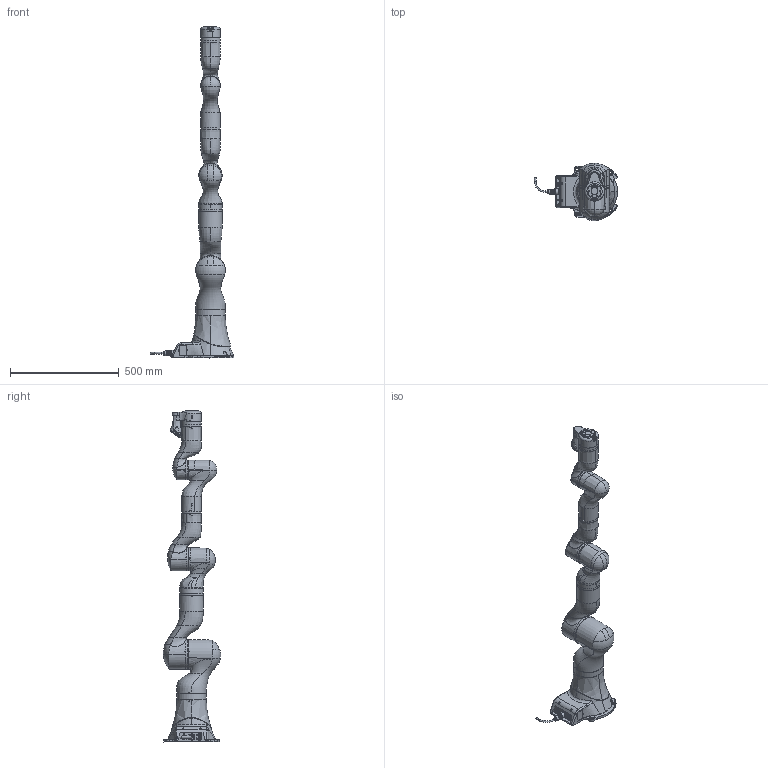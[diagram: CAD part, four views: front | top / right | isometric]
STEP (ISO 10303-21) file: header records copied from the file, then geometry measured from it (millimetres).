
FILE_DESCRIPTION(/* description */ (''),/* implementation_level */ '2;1');
FILE_NAME(/* name */ 'XM7-R850-B0S2 简化模型无Logo(20201229).stp',/* time_stamp */ '2020-12-29T16:42:38+08:00',/* author */ (''),/* organization */ (''),/* preprocessor_version */ 'ST-DEVELOPER v16',/* originating_system */ 'SIEMENS PLM Software NX 10.0',/* authorisation */ '');
FILE_SCHEMA (('CONFIG_CONTROL_DESIGN'));
Products named in the file (8): XM7-R850-B0S2-2; XM7-R850-B0S2-6; XM7-R850-B0S2-5; XM7-R850-B0S2-4; XM7-R850-B0S2-3; XM7-R850-B0S2-1; XM7-R850-B0S2-base; XM7-R850-B0S2 简化模型无Logo(20201029)
Assembly tree (7 placements, depth 2):
  XM7-R850-B0S2 简化模型无Logo(20201029)
    XM7-R850-B0S2-base
    XM7-R850-B0S2-1
    XM7-R850-B0S2-3
    XM7-R850-B0S2-4
    XM7-R850-B0S2-5
    XM7-R850-B0S2-6
    XM7-R850-B0S2-2
Bounding box: 384.35 x 264.14 x 1529.5 mm (x, y, z)
Volume: 19340624.5 mm3; surface area: 942475.3 mm2
Topology: 8 solids, 18 shells, 1204 faces, 3059 edges, 1974 vertices
Faces by surface type: plane 396, bspline 316, cylinder 225, extrusion 224, cone 32, torus 8, sphere 2, revolution 1
Full cylindrical faces by diameter (mm): 5 x7, 6 x3, 6.5 x2, 6.6 x2, 8 x4, 8.1 x1, 9 x2, 9.8 x1, 10 x2, 11.5 x1, 12 x2, 14.5 x1, 15 x1, 18 x5, 21.5 x1, 21.6 x1, 22.5 x2, 23.5 x2, 24 x2, 26 x1, 31.5 x1, 60 x5, 62 x2, 73 x2, 85 x4, 89 x4, 90 x6, 106.5 x2, 107 x5, 135 x3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
Entity records: 1067132 total; most frequent: CARTESIAN_POINT 1041671, ORIENTED_EDGE 5762, DIRECTION 3525, EDGE_CURVE 2881, VERTEX_POINT 1930, B_SPLINE_CURVE_WITH_KNOTS 1564, EDGE_LOOP 1426, ADVANCED_FACE 1204
